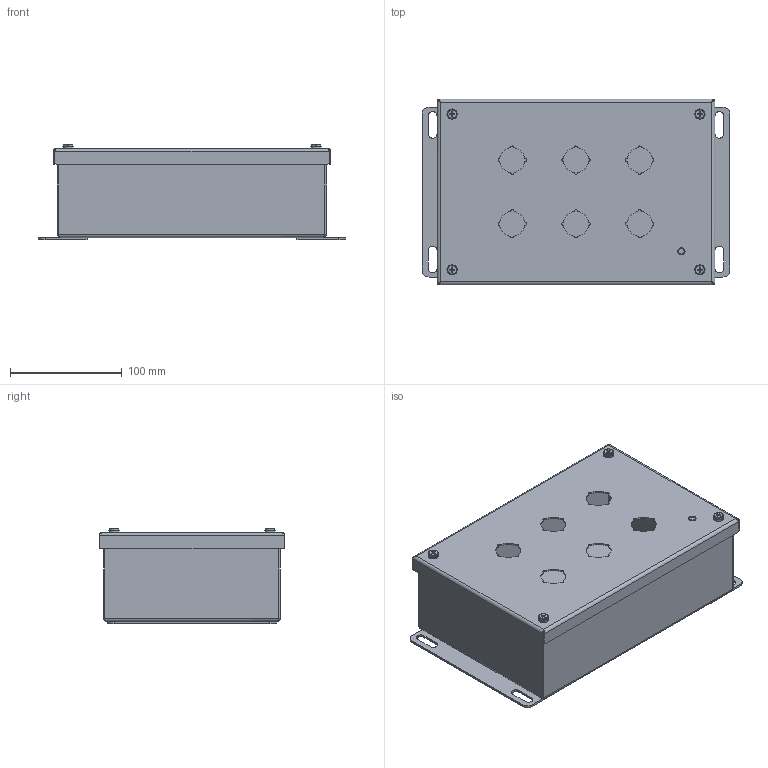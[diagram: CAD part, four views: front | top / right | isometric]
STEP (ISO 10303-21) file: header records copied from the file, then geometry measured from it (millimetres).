
FILE_DESCRIPTION((''),'2;1');
FILE_NAME('MODEL-394_ASM','2021-06-07T11:55:12',('mikek'),('SAGINAW CONTROL & ENGINEERING'),'CREO PARAMETRIC BY PTC INC, 2017260','CREO PARAMETRIC BY PTC INC, 2017260','');
FILE_SCHEMA(('AUTOMOTIVE_DESIGN { 1 0 10303 214 1 1 1 1 }'));
Length unit declared in the file: inch
Products named in the file (10): MODEL-394-BDY; MODEL-394-DR; 100097; 102200; 101966; 100012; 102599; 102534; MODEL-394-GSKT; MODEL-394_ASM
Assembly tree (16 placements, depth 2):
  MODEL-394_ASM
    MODEL-394-BDY
    MODEL-394-DR
    100097
    102200  x2
    101966
    100012
    102599  x4
    102534  x4
    MODEL-394-GSKT
Bounding box: 276.23 x 166.69 x 85.69 mm (x, y, z)
Volume: 276184.7 mm3; surface area: 360392.9 mm2
Topology: 19 solids, 19 shells, 803 faces, 2026 edges, 1204 vertices
Faces by surface type: cylinder 314, plane 265, bspline 108, torus 88, cone 28
Entity records: 24562 total; most frequent: CARTESIAN_POINT 6203, DIRECTION 2580, ORIENTED_EDGE 2440, EDGE_CURVE 1220, PRESENTATION_STYLE_ASSIGNMENT 1132, STYLED_ITEM 1132, CURVE_STYLE 1056, AXIS2_PLACEMENT_3D 971
